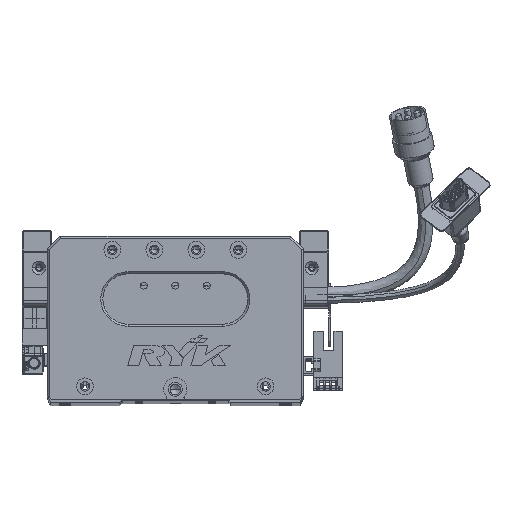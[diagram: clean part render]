
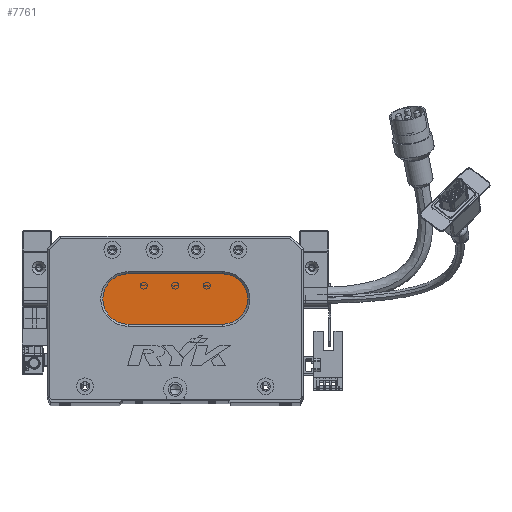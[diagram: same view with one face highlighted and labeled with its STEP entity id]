
A CAD part, top view. The second image highlights one B-rep face of the part: STEP entity #7761.
In plain terms, the highlighted planar face has unit normal (0, 0, 1) as drawn and (0, 0, -1) by its records, which use the part's own axes.
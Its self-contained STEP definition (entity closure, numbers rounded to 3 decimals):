
#817 = ORIENTED_EDGE ( 'NONE', *, *, #65590, .T. ) ;
#1929 = CIRCLE ( 'NONE', #81117, 12. ) ;
#3048 = CIRCLE ( 'NONE', #82498, 12. ) ;
#4434 = EDGE_CURVE ( 'NONE', #62314, #24800, #59757, .T. ) ;
#4715 = CARTESIAN_POINT ( 'NONE',  ( 26.5, 48., 13. ) ) ;
#6451 = VERTEX_POINT ( 'NONE', #68430 ) ;
#6501 = VERTEX_POINT ( 'NONE', #9963 ) ;
#6931 = DIRECTION ( 'NONE',  ( 0., 0., -1. ) ) ;
#7761 = ADVANCED_FACE ( 'NONE', ( #54247 ), #29914, .T. ) ;
#8917 = CARTESIAN_POINT ( 'NONE',  ( 38.5, 60., 13. ) ) ;
#9211 = CARTESIAN_POINT ( 'NONE',  ( 38.5, 48., 13. ) ) ;
#9963 = CARTESIAN_POINT ( 'NONE',  ( 38.5, 36., 13. ) ) ;
#13143 = CARTESIAN_POINT ( 'NONE',  ( 83.5, 60., 13. ) ) ;
#13742 = DIRECTION ( 'NONE',  ( -1., 0., 0. ) ) ;
#13951 = EDGE_CURVE ( 'NONE', #82628, #6451, #1929, .T. ) ;
#22448 = AXIS2_PLACEMENT_3D ( 'NONE', #9211, #61170, #55160 ) ;
#23801 = LINE ( 'NONE', #45650, #54264 ) ;
#24418 = LINE ( 'NONE', #43235, #48766 ) ;
#24800 = VERTEX_POINT ( 'NONE', #8917 ) ;
#25220 = ORIENTED_EDGE ( 'NONE', *, *, #78549, .T. ) ;
#28074 = ORIENTED_EDGE ( 'NONE', *, *, #35238, .T. ) ;
#29914 = PLANE ( 'NONE',  #73156 ) ;
#30475 = CARTESIAN_POINT ( 'NONE',  ( 83.5, 48., 13. ) ) ;
#35238 = EDGE_CURVE ( 'NONE', #24800, #82628, #24418, .T. ) ;
#38009 = DIRECTION ( 'NONE',  ( -1., 0., 0. ) ) ;
#38277 = DIRECTION ( 'NONE',  ( 0., 0., -1. ) ) ;
#43235 = CARTESIAN_POINT ( 'NONE',  ( 83.5, 60., 13. ) ) ;
#45333 = ORIENTED_EDGE ( 'NONE', *, *, #4434, .T. ) ;
#45650 = CARTESIAN_POINT ( 'NONE',  ( 83.5, 36., 13. ) ) ;
#46384 = CARTESIAN_POINT ( 'NONE',  ( 38.5, 48., 13. ) ) ;
#48766 = VECTOR ( 'NONE', #82940, 1000. ) ;
#54247 = FACE_OUTER_BOUND ( 'NONE', #81312, .T. ) ;
#54264 = VECTOR ( 'NONE', #58692, 1000. ) ;
#55160 = DIRECTION ( 'NONE',  ( -1., 0., 0. ) ) ;
#58692 = DIRECTION ( 'NONE',  ( -1., 0., 0. ) ) ;
#59757 = CIRCLE ( 'NONE', #22448, 12. ) ;
#61170 = DIRECTION ( 'NONE',  ( 0., 0., -1. ) ) ;
#62314 = VERTEX_POINT ( 'NONE', #4715 ) ;
#65590 = EDGE_CURVE ( 'NONE', #6451, #6501, #23801, .T. ) ;
#68430 = CARTESIAN_POINT ( 'NONE',  ( 83.5, 36., 13. ) ) ;
#73156 = AXIS2_PLACEMENT_3D ( 'NONE', #30475, #82992, #75330 ) ;
#73634 = ORIENTED_EDGE ( 'NONE', *, *, #13951, .T. ) ;
#75330 = DIRECTION ( 'NONE',  ( -1., 0., 0. ) ) ;
#77176 = CARTESIAN_POINT ( 'NONE',  ( 83.5, 48., 13. ) ) ;
#78549 = EDGE_CURVE ( 'NONE', #6501, #62314, #3048, .T. ) ;
#81117 = AXIS2_PLACEMENT_3D ( 'NONE', #77176, #38277, #38009 ) ;
#81312 = EDGE_LOOP ( 'NONE', ( #73634, #817, #25220, #45333, #28074 ) ) ;
#82498 = AXIS2_PLACEMENT_3D ( 'NONE', #46384, #6931, #13742 ) ;
#82628 = VERTEX_POINT ( 'NONE', #13143 ) ;
#82940 = DIRECTION ( 'NONE',  ( 1., 0., 0. ) ) ;
#82992 = DIRECTION ( 'NONE',  ( 0., 0., -1. ) ) ;
